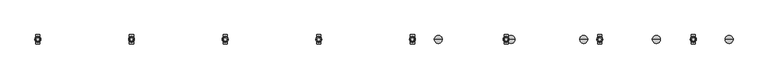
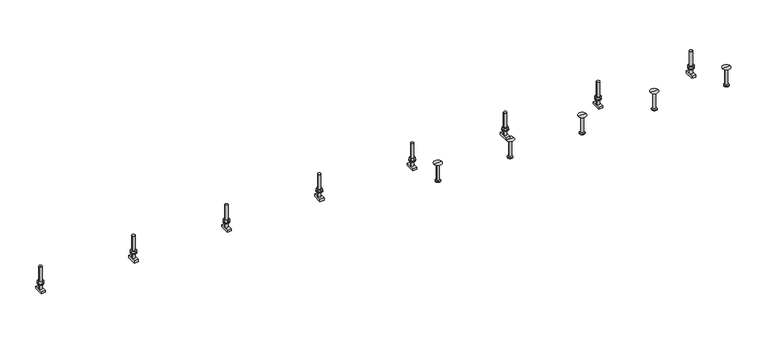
"""IFC4 building model written with IfcOpenShell, lengths in millimetres: fastener geometry, JTA-K JORDAHL® AnchorChannels : JTA-K L=3000 mm."""

from ifc_helpers import new_model, si_unit, point, frame, frame_2d, origin, place, context, project, spatial, polyline, circle_curve, trimmed, segment, composite_curve, outline, extrude, source, transform, mapped, element, save
from ifc_brep_helpers import plane_surface, cylinder_surface, revolved_surface, advanced_brep


def fastener_4070ea0e(model_context):
    return source(origin(), model_context, "Body", "SolidModel", [
        extrude(outline(polyline([(2608.3333333, -9.2376043), (2600.3333333, -4.6188022), (2600.3333333, 4.6188022), (2608.3333333, 9.2376043), (2616.3333333, 4.6188022), (2616.3333333, -4.6188022), (2608.3333333, -9.2376043)]), holes=[composite_curve([segment(trimmed(circle_curve(frame_2d((2608.3333333, 0.0)), 5.0), [point((2603.3333333, 0.0))], [point((2613.3333333, 0.0))], True, "CARTESIAN"), True, "CONTINUOUS"), segment(trimmed(circle_curve(frame_2d((2608.3333333, 0.0)), 5.0), [point((2613.3333333, 0.0))], [point((2603.3333333, 0.0))], True, "CARTESIAN"), True, "CONTINUOUS")], self_intersect=False)]), frame((0.0, 0.0, 17.0), z_axis=(0.0, 0.0, 1.0), x_axis=(1.0, 0.0, 0.0)), (0.0, 0.0, 1.0), 8.4),
        extrude(outline(composite_curve([segment(trimmed(circle_curve(frame_2d((2608.3333333, 0.0)), 10.0), [point((2598.3333333, 0.0))], [point((2618.3333333, 0.0))], False, "CARTESIAN"), True, "CONTINUOUS"), segment(trimmed(circle_curve(frame_2d((2608.3333333, 0.0)), 10.0), [point((2618.3333333, 0.0))], [point((2598.3333333, 0.0))], False, "CARTESIAN"), True, "CONTINUOUS")], self_intersect=False), holes=[composite_curve([segment(trimmed(circle_curve(frame_2d((2608.3333333, 0.0)), 5.25), [point((2603.0833333, 0.0))], [point((2613.5833333, 0.0))], True, "CARTESIAN"), True, "CONTINUOUS"), segment(trimmed(circle_curve(frame_2d((2608.3333333, 0.0)), 5.25), [point((2613.5833333, 0.0))], [point((2603.0833333, 0.0))], True, "CARTESIAN"), True, "CONTINUOUS")], self_intersect=False)]), frame((0.0, 0.0, 15.0), z_axis=(0.0, 0.0, 1.0), x_axis=(1.0, 0.0, 0.0)), (0.0, 0.0, 1.0), 2.0),
        extrude(outline(polyline([(2291.6666667, -9.2376043), (2283.6666667, -4.6188022), (2283.6666667, 4.6188022), (2291.6666667, 9.2376043), (2299.6666667, 4.6188022), (2299.6666667, -4.6188022), (2291.6666667, -9.2376043)]), holes=[composite_curve([segment(trimmed(circle_curve(frame_2d((2291.6666667, 0.0)), 5.0), [point((2286.6666667, 0.0))], [point((2296.6666667, 0.0))], True, "CARTESIAN"), True, "CONTINUOUS"), segment(trimmed(circle_curve(frame_2d((2291.6666667, 0.0)), 5.0), [point((2296.6666667, 0.0))], [point((2286.6666667, 0.0))], True, "CARTESIAN"), True, "CONTINUOUS")], self_intersect=False)]), frame((0.0, 0.0, 17.0), z_axis=(0.0, 0.0, 1.0), x_axis=(1.0, 0.0, 0.0)), (0.0, 0.0, 1.0), 8.4),
        extrude(outline(composite_curve([segment(trimmed(circle_curve(frame_2d((2291.6666667, 0.0)), 10.0), [point((2281.6666667, 0.0))], [point((2301.6666667, 0.0))], False, "CARTESIAN"), True, "CONTINUOUS"), segment(trimmed(circle_curve(frame_2d((2291.6666667, 0.0)), 10.0), [point((2301.6666667, 0.0))], [point((2281.6666667, 0.0))], False, "CARTESIAN"), True, "CONTINUOUS")], self_intersect=False), holes=[composite_curve([segment(trimmed(circle_curve(frame_2d((2291.6666667, 0.0)), 5.25), [point((2286.4166667, 0.0))], [point((2296.9166667, 0.0))], True, "CARTESIAN"), True, "CONTINUOUS"), segment(trimmed(circle_curve(frame_2d((2291.6666667, 0.0)), 5.25), [point((2296.9166667, 0.0))], [point((2286.4166667, 0.0))], True, "CARTESIAN"), True, "CONTINUOUS")], self_intersect=False)]), frame((0.0, 0.0, 15.0), z_axis=(0.0, 0.0, 1.0), x_axis=(1.0, 0.0, 0.0)), (0.0, 0.0, 1.0), 2.0),
        extrude(outline(polyline([(1975.0, -9.2376043), (1967.0, -4.6188022), (1967.0, 4.6188022), (1975.0, 9.2376043), (1983.0, 4.6188022), (1983.0, -4.6188022), (1975.0, -9.2376043)]), holes=[composite_curve([segment(trimmed(circle_curve(frame_2d((1975.0, 0.0)), 5.0), [point((1970.0, 0.0))], [point((1980.0, 0.0))], True, "CARTESIAN"), True, "CONTINUOUS"), segment(trimmed(circle_curve(frame_2d((1975.0, 0.0)), 5.0), [point((1980.0, 0.0))], [point((1970.0, 0.0))], True, "CARTESIAN"), True, "CONTINUOUS")], self_intersect=False)]), frame((0.0, 0.0, 17.0), z_axis=(0.0, 0.0, 1.0), x_axis=(1.0, 0.0, 0.0)), (0.0, 0.0, 1.0), 8.4),
        extrude(outline(composite_curve([segment(trimmed(circle_curve(frame_2d((1975.0, 0.0)), 10.0), [point((1965.0, 0.0))], [point((1985.0, 0.0))], False, "CARTESIAN"), True, "CONTINUOUS"), segment(trimmed(circle_curve(frame_2d((1975.0, 0.0)), 10.0), [point((1985.0, 0.0))], [point((1965.0, 0.0))], False, "CARTESIAN"), True, "CONTINUOUS")], self_intersect=False), holes=[composite_curve([segment(trimmed(circle_curve(frame_2d((1975.0, 0.0)), 5.25), [point((1969.75, 0.0))], [point((1980.25, 0.0))], True, "CARTESIAN"), True, "CONTINUOUS"), segment(trimmed(circle_curve(frame_2d((1975.0, 0.0)), 5.25), [point((1980.25, 0.0))], [point((1969.75, 0.0))], True, "CARTESIAN"), True, "CONTINUOUS")], self_intersect=False)]), frame((0.0, 0.0, 15.0), z_axis=(0.0, 0.0, 1.0), x_axis=(1.0, 0.0, 0.0)), (0.0, 0.0, 1.0), 2.0),
        extrude(outline(polyline([(1658.3333333, -9.2376043), (1650.3333333, -4.6188022), (1650.3333333, 4.6188022), (1658.3333333, 9.2376043), (1666.3333333, 4.6188022), (1666.3333333, -4.6188022), (1658.3333333, -9.2376043)]), holes=[composite_curve([segment(trimmed(circle_curve(frame_2d((1658.3333333, 0.0)), 5.0), [point((1653.3333333, 0.0))], [point((1663.3333333, 0.0))], True, "CARTESIAN"), True, "CONTINUOUS"), segment(trimmed(circle_curve(frame_2d((1658.3333333, 0.0)), 5.0), [point((1663.3333333, 0.0))], [point((1653.3333333, 0.0))], True, "CARTESIAN"), True, "CONTINUOUS")], self_intersect=False)]), frame((0.0, 0.0, 17.0), z_axis=(0.0, 0.0, 1.0), x_axis=(1.0, 0.0, 0.0)), (0.0, 0.0, 1.0), 8.4),
        extrude(outline(composite_curve([segment(trimmed(circle_curve(frame_2d((1658.3333333, 0.0)), 10.0), [point((1648.3333333, 0.0))], [point((1668.3333333, 0.0))], False, "CARTESIAN"), True, "CONTINUOUS"), segment(trimmed(circle_curve(frame_2d((1658.3333333, 0.0)), 10.0), [point((1668.3333333, 0.0))], [point((1648.3333333, 0.0))], False, "CARTESIAN"), True, "CONTINUOUS")], self_intersect=False), holes=[composite_curve([segment(trimmed(circle_curve(frame_2d((1658.3333333, 0.0)), 5.25), [point((1653.0833333, 0.0))], [point((1663.5833333, 0.0))], True, "CARTESIAN"), True, "CONTINUOUS"), segment(trimmed(circle_curve(frame_2d((1658.3333333, 0.0)), 5.25), [point((1663.5833333, 0.0))], [point((1653.0833333, 0.0))], True, "CARTESIAN"), True, "CONTINUOUS")], self_intersect=False)]), frame((0.0, 0.0, 15.0), z_axis=(0.0, 0.0, 1.0), x_axis=(1.0, 0.0, 0.0)), (0.0, 0.0, 1.0), 2.0),
        extrude(outline(polyline([(1341.6666667, -9.2376043), (1333.6666667, -4.6188022), (1333.6666667, 4.6188022), (1341.6666667, 9.2376043), (1349.6666667, 4.6188022), (1349.6666667, -4.6188022), (1341.6666667, -9.2376043)]), holes=[composite_curve([segment(trimmed(circle_curve(frame_2d((1341.6666667, 0.0)), 5.0), [point((1336.6666667, 0.0))], [point((1346.6666667, 0.0))], True, "CARTESIAN"), True, "CONTINUOUS"), segment(trimmed(circle_curve(frame_2d((1341.6666667, 0.0)), 5.0), [point((1346.6666667, 0.0))], [point((1336.6666667, 0.0))], True, "CARTESIAN"), True, "CONTINUOUS")], self_intersect=False)]), frame((0.0, 0.0, 17.0), z_axis=(0.0, 0.0, 1.0), x_axis=(1.0, 0.0, 0.0)), (0.0, 0.0, 1.0), 8.4),
        extrude(outline(composite_curve([segment(trimmed(circle_curve(frame_2d((1341.6666667, 0.0)), 10.0), [point((1331.6666667, 0.0))], [point((1351.6666667, 0.0))], False, "CARTESIAN"), True, "CONTINUOUS"), segment(trimmed(circle_curve(frame_2d((1341.6666667, 0.0)), 10.0), [point((1351.6666667, 0.0))], [point((1331.6666667, 0.0))], False, "CARTESIAN"), True, "CONTINUOUS")], self_intersect=False), holes=[composite_curve([segment(trimmed(circle_curve(frame_2d((1341.6666667, 0.0)), 5.25), [point((1336.4166667, 0.0))], [point((1346.9166667, 0.0))], True, "CARTESIAN"), True, "CONTINUOUS"), segment(trimmed(circle_curve(frame_2d((1341.6666667, 0.0)), 5.25), [point((1346.9166667, 0.0))], [point((1336.4166667, 0.0))], True, "CARTESIAN"), True, "CONTINUOUS")], self_intersect=False)]), frame((0.0, 0.0, 15.0), z_axis=(0.0, 0.0, 1.0), x_axis=(1.0, 0.0, 0.0)), (0.0, 0.0, 1.0), 2.0),
        extrude(outline(polyline([(1025.0, -9.2376043), (1017.0, -4.6188022), (1017.0, 4.6188022), (1025.0, 9.2376043), (1033.0, 4.6188022), (1033.0, -4.6188022), (1025.0, -9.2376043)]), holes=[composite_curve([segment(trimmed(circle_curve(frame_2d((1025.0, 0.0)), 5.0), [point((1020.0, 0.0))], [point((1030.0, 0.0))], True, "CARTESIAN"), True, "CONTINUOUS"), segment(trimmed(circle_curve(frame_2d((1025.0, 0.0)), 5.0), [point((1030.0, 0.0))], [point((1020.0, 0.0))], True, "CARTESIAN"), True, "CONTINUOUS")], self_intersect=False)]), frame((0.0, 0.0, 17.0), z_axis=(0.0, 0.0, 1.0), x_axis=(1.0, 0.0, 0.0)), (0.0, 0.0, 1.0), 8.4),
        extrude(outline(composite_curve([segment(trimmed(circle_curve(frame_2d((1025.0, 0.0)), 10.0), [point((1015.0, 0.0))], [point((1035.0, 0.0))], False, "CARTESIAN"), True, "CONTINUOUS"), segment(trimmed(circle_curve(frame_2d((1025.0, 0.0)), 10.0), [point((1035.0, 0.0))], [point((1015.0, 0.0))], False, "CARTESIAN"), True, "CONTINUOUS")], self_intersect=False), holes=[composite_curve([segment(trimmed(circle_curve(frame_2d((1025.0, 0.0)), 5.25), [point((1019.75, 0.0))], [point((1030.25, 0.0))], True, "CARTESIAN"), True, "CONTINUOUS"), segment(trimmed(circle_curve(frame_2d((1025.0, 0.0)), 5.25), [point((1030.25, 0.0))], [point((1019.75, 0.0))], True, "CARTESIAN"), True, "CONTINUOUS")], self_intersect=False)]), frame((0.0, 0.0, 15.0), z_axis=(0.0, 0.0, 1.0), x_axis=(1.0, 0.0, 0.0)), (0.0, 0.0, 1.0), 2.0),
        extrude(outline(polyline([(708.3333333, -9.2376043), (700.3333333, -4.6188022), (700.3333333, 4.6188022), (708.3333333, 9.2376043), (716.3333333, 4.6188022), (716.3333333, -4.6188022), (708.3333333, -9.2376043)]), holes=[composite_curve([segment(trimmed(circle_curve(frame_2d((708.3333333, 0.0)), 5.0), [point((703.3333333, 0.0))], [point((713.3333333, 0.0))], True, "CARTESIAN"), True, "CONTINUOUS"), segment(trimmed(circle_curve(frame_2d((708.3333333, 0.0)), 5.0), [point((713.3333333, 0.0))], [point((703.3333333, 0.0))], True, "CARTESIAN"), True, "CONTINUOUS")], self_intersect=False)]), frame((0.0, 0.0, 17.0), z_axis=(0.0, 0.0, 1.0), x_axis=(1.0, 0.0, 0.0)), (0.0, 0.0, 1.0), 8.4),
        extrude(outline(composite_curve([segment(trimmed(circle_curve(frame_2d((708.3333333, 0.0)), 10.0), [point((698.3333333, 0.0))], [point((718.3333333, 0.0))], False, "CARTESIAN"), True, "CONTINUOUS"), segment(trimmed(circle_curve(frame_2d((708.3333333, 0.0)), 10.0), [point((718.3333333, 0.0))], [point((698.3333333, 0.0))], False, "CARTESIAN"), True, "CONTINUOUS")], self_intersect=False), holes=[composite_curve([segment(trimmed(circle_curve(frame_2d((708.3333333, 0.0)), 5.25), [point((703.0833333, 0.0))], [point((713.5833333, 0.0))], True, "CARTESIAN"), True, "CONTINUOUS"), segment(trimmed(circle_curve(frame_2d((708.3333333, 0.0)), 5.25), [point((713.5833333, 0.0))], [point((703.0833333, 0.0))], True, "CARTESIAN"), True, "CONTINUOUS")], self_intersect=False)]), frame((0.0, 0.0, 15.0), z_axis=(0.0, 0.0, 1.0), x_axis=(1.0, 0.0, 0.0)), (0.0, 0.0, 1.0), 2.0),
        extrude(outline(polyline([(391.6666667, -9.2376043), (383.6666667, -4.6188022), (383.6666667, 4.6188022), (391.6666667, 9.2376043), (399.6666667, 4.6188022), (399.6666667, -4.6188022), (391.6666667, -9.2376043)]), holes=[composite_curve([segment(trimmed(circle_curve(frame_2d((391.6666667, 0.0)), 5.0), [point((386.6666667, 0.0))], [point((396.6666667, 0.0))], True, "CARTESIAN"), True, "CONTINUOUS"), segment(trimmed(circle_curve(frame_2d((391.6666667, 0.0)), 5.0), [point((396.6666667, 0.0))], [point((386.6666667, 0.0))], True, "CARTESIAN"), True, "CONTINUOUS")], self_intersect=False)]), frame((0.0, 0.0, 17.0), z_axis=(0.0, 0.0, 1.0), x_axis=(1.0, 0.0, 0.0)), (0.0, 0.0, 1.0), 8.4),
        extrude(outline(composite_curve([segment(trimmed(circle_curve(frame_2d((391.6666667, 0.0)), 10.0), [point((381.6666667, 0.0))], [point((401.6666667, 0.0))], False, "CARTESIAN"), True, "CONTINUOUS"), segment(trimmed(circle_curve(frame_2d((391.6666667, 0.0)), 10.0), [point((401.6666667, 0.0))], [point((381.6666667, 0.0))], False, "CARTESIAN"), True, "CONTINUOUS")], self_intersect=False), holes=[composite_curve([segment(trimmed(circle_curve(frame_2d((391.6666667, 0.0)), 5.25), [point((386.4166667, 0.0))], [point((396.9166667, 0.0))], True, "CARTESIAN"), True, "CONTINUOUS"), segment(trimmed(circle_curve(frame_2d((391.6666667, 0.0)), 5.25), [point((396.9166667, 0.0))], [point((386.4166667, 0.0))], True, "CARTESIAN"), True, "CONTINUOUS")], self_intersect=False)]), frame((0.0, 0.0, 15.0), z_axis=(0.0, 0.0, 1.0), x_axis=(1.0, 0.0, 0.0)), (0.0, 0.0, 1.0), 2.0),
        advanced_brep(
        [(2615.3333333, -16.0, -3.0), (2615.3333333, -16.0, -11.0), (2615.3333333, 16.0, -11.0), (2615.3333333, 16.0, -3.0), (2601.3333333, -16.0, -3.0), (2601.3333333, 16.0, -3.0), (2601.3333333, 16.0, -11.0), (2601.3333333, -16.0, -11.0), (2613.3333333, 0.0, -3.0), (2603.3333333, 0.0, -3.0), (2603.3333333, 0.0, 77.0), (2613.3333333, 0.0, 77.0)],
        [
            (0, 1),
            (1, 2),
            (2, 3),
            (3, 0),
            (4, 5),
            (5, 6),
            (6, 7),
            (7, 4),
            (3, 5),
            (4, 0),
            (8, 9, circle_curve(frame((2608.3333333, 0.0, -3.0), z_axis=(0.0, 0.0, -1.0), x_axis=(1.0, 0.0, 0.0)), 5.0)),
            (9, 8, circle_curve(frame((2608.3333333, 0.0, -3.0), z_axis=(0.0, 0.0, -1.0), x_axis=(1.0, 0.0, 0.0)), 5.0)),
            (2, 6),
            (1, 7),
            (10, 11, circle_curve(frame((2608.3333333, 0.0, 77.0), z_axis=(0.0, 0.0, 1.0), x_axis=(1.0, 0.0, 0.0)), 5.0)),
            (11, 10, circle_curve(frame((2608.3333333, 0.0, 77.0), z_axis=(0.0, 0.0, 1.0), x_axis=(1.0, 0.0, 0.0)), 5.0)),
            (11, 8),
            (9, 10),
        ],
        [
            plane_surface(frame((2615.3333333, 16.0, -3.0), z_axis=(1.0, 0.0, 0.0), x_axis=(0.0, 1.0, 0.0))),
            plane_surface(frame((2601.3333333, 16.0, -3.0), z_axis=(-1.0, 0.0, 0.0), x_axis=(0.0, -1.0, 0.0))),
            plane_surface(frame((2615.3333333, -16.0, -3.0), z_axis=(0.0, 0.0, 1.0), x_axis=(-1.0, 0.0, 0.0))),
            plane_surface(frame((2615.3333333, 16.0, -3.0), z_axis=(0.0, 1.0, 0.0), x_axis=(-1.0, 0.0, 0.0))),
            plane_surface(frame((2615.3333333, 16.0, -11.0), z_axis=(0.0, 0.0, -1.0), x_axis=(-1.0, 0.0, 0.0))),
            plane_surface(frame((2615.3333333, -16.0, -11.0), z_axis=(0.0, -1.0, 0.0), x_axis=(-1.0, 0.0, 0.0))),
            plane_surface(frame((2613.3333333, 0.0, 77.0), z_axis=(0.0, 0.0, 1.0), x_axis=(0.0, -1.0, 0.0))),
            cylinder_surface(frame((2608.3333333, 0.0, -3.0), z_axis=(0.0, 0.0, 1.0), x_axis=(1.0, 0.0, 0.0)), 5.0),
        ],
        [
            (0, [[1, 2, 3, 4]]),
            (1, [[5, 6, 7, 8]]),
            (2, [[9, -5, 10, -4], [11, 12]]),
            (3, [[13, -6, -9, -3]]),
            (4, [[14, -7, -13, -2]]),
            (5, [[-10, -8, -14, -1]]),
            (6, [[15, 16]]),
            (7, [[17, -12, 18, -16]]),
            (7, [[-18, -11, -17, -15]]),
        ],
    ),
        advanced_brep(
        [(2298.6666667, -16.0, -3.0), (2298.6666667, -16.0, -11.0), (2298.6666667, 16.0, -11.0), (2298.6666667, 16.0, -3.0), (2284.6666667, -16.0, -3.0), (2284.6666667, 16.0, -3.0), (2284.6666667, 16.0, -11.0), (2284.6666667, -16.0, -11.0), (2296.6666667, 0.0, -3.0), (2286.6666667, 0.0, -3.0), (2286.6666667, 0.0, 77.0), (2296.6666667, 0.0, 77.0)],
        [
            (0, 1),
            (1, 2),
            (2, 3),
            (3, 0),
            (4, 5),
            (5, 6),
            (6, 7),
            (7, 4),
            (3, 5),
            (4, 0),
            (8, 9, circle_curve(frame((2291.6666667, 0.0, -3.0), z_axis=(0.0, 0.0, -1.0), x_axis=(1.0, 0.0, 0.0)), 5.0)),
            (9, 8, circle_curve(frame((2291.6666667, 0.0, -3.0), z_axis=(0.0, 0.0, -1.0), x_axis=(1.0, 0.0, 0.0)), 5.0)),
            (2, 6),
            (1, 7),
            (10, 11, circle_curve(frame((2291.6666667, 0.0, 77.0), z_axis=(0.0, 0.0, 1.0), x_axis=(1.0, 0.0, 0.0)), 5.0)),
            (11, 10, circle_curve(frame((2291.6666667, 0.0, 77.0), z_axis=(0.0, 0.0, 1.0), x_axis=(1.0, 0.0, 0.0)), 5.0)),
            (11, 8),
            (9, 10),
        ],
        [
            plane_surface(frame((2298.6666667, 16.0, -3.0), z_axis=(1.0, 0.0, 0.0), x_axis=(0.0, 1.0, 0.0))),
            plane_surface(frame((2284.6666667, 16.0, -3.0), z_axis=(-1.0, 0.0, 0.0), x_axis=(0.0, -1.0, 0.0))),
            plane_surface(frame((2298.6666667, -16.0, -3.0), z_axis=(0.0, 0.0, 1.0), x_axis=(-1.0, 0.0, 0.0))),
            plane_surface(frame((2298.6666667, 16.0, -3.0), z_axis=(0.0, 1.0, 0.0), x_axis=(-1.0, 0.0, 0.0))),
            plane_surface(frame((2298.6666667, 16.0, -11.0), z_axis=(0.0, 0.0, -1.0), x_axis=(-1.0, 0.0, 0.0))),
            plane_surface(frame((2298.6666667, -16.0, -11.0), z_axis=(0.0, -1.0, 0.0), x_axis=(-1.0, 0.0, 0.0))),
            plane_surface(frame((2296.6666667, 0.0, 77.0), z_axis=(0.0, 0.0, 1.0), x_axis=(0.0, -1.0, 0.0))),
            cylinder_surface(frame((2291.6666667, 0.0, -3.0), z_axis=(0.0, 0.0, 1.0), x_axis=(1.0, 0.0, 0.0)), 5.0),
        ],
        [
            (0, [[1, 2, 3, 4]]),
            (1, [[5, 6, 7, 8]]),
            (2, [[9, -5, 10, -4], [11, 12]]),
            (3, [[13, -6, -9, -3]]),
            (4, [[14, -7, -13, -2]]),
            (5, [[-10, -8, -14, -1]]),
            (6, [[15, 16]]),
            (7, [[17, -12, 18, -16]]),
            (7, [[-18, -11, -17, -15]]),
        ],
    ),
        advanced_brep(
        [(1982.0, -16.0, -3.0), (1982.0, -16.0, -11.0), (1982.0, 16.0, -11.0), (1982.0, 16.0, -3.0), (1968.0, -16.0, -3.0), (1968.0, 16.0, -3.0), (1968.0, 16.0, -11.0), (1968.0, -16.0, -11.0), (1980.0, 0.0, -3.0), (1970.0, 0.0, -3.0), (1970.0, 0.0, 77.0), (1980.0, 0.0, 77.0)],
        [
            (0, 1),
            (1, 2),
            (2, 3),
            (3, 0),
            (4, 5),
            (5, 6),
            (6, 7),
            (7, 4),
            (3, 5),
            (4, 0),
            (8, 9, circle_curve(frame((1975.0, 0.0, -3.0), z_axis=(0.0, 0.0, -1.0), x_axis=(1.0, 0.0, 0.0)), 5.0)),
            (9, 8, circle_curve(frame((1975.0, 0.0, -3.0), z_axis=(0.0, 0.0, -1.0), x_axis=(1.0, 0.0, 0.0)), 5.0)),
            (2, 6),
            (1, 7),
            (10, 11, circle_curve(frame((1975.0, 0.0, 77.0), z_axis=(0.0, 0.0, 1.0), x_axis=(1.0, 0.0, 0.0)), 5.0)),
            (11, 10, circle_curve(frame((1975.0, 0.0, 77.0), z_axis=(0.0, 0.0, 1.0), x_axis=(1.0, 0.0, 0.0)), 5.0)),
            (11, 8),
            (9, 10),
        ],
        [
            plane_surface(frame((1982.0, 16.0, -3.0), z_axis=(1.0, 0.0, 0.0), x_axis=(0.0, 1.0, 0.0))),
            plane_surface(frame((1968.0, 16.0, -3.0), z_axis=(-1.0, 0.0, 0.0), x_axis=(0.0, -1.0, 0.0))),
            plane_surface(frame((1982.0, -16.0, -3.0), z_axis=(0.0, 0.0, 1.0), x_axis=(-1.0, 0.0, 0.0))),
            plane_surface(frame((1982.0, 16.0, -3.0), z_axis=(0.0, 1.0, 0.0), x_axis=(-1.0, 0.0, 0.0))),
            plane_surface(frame((1982.0, 16.0, -11.0), z_axis=(0.0, 0.0, -1.0), x_axis=(-1.0, 0.0, 0.0))),
            plane_surface(frame((1982.0, -16.0, -11.0), z_axis=(0.0, -1.0, 0.0), x_axis=(-1.0, 0.0, 0.0))),
            plane_surface(frame((1980.0, 0.0, 77.0), z_axis=(0.0, 0.0, 1.0), x_axis=(0.0, -1.0, 0.0))),
            cylinder_surface(frame((1975.0, 0.0, -3.0), z_axis=(0.0, 0.0, 1.0), x_axis=(1.0, 0.0, 0.0)), 5.0),
        ],
        [
            (0, [[1, 2, 3, 4]]),
            (1, [[5, 6, 7, 8]]),
            (2, [[9, -5, 10, -4], [11, 12]]),
            (3, [[13, -6, -9, -3]]),
            (4, [[14, -7, -13, -2]]),
            (5, [[-10, -8, -14, -1]]),
            (6, [[15, 16]]),
            (7, [[17, -12, 18, -16]]),
            (7, [[-18, -11, -17, -15]]),
        ],
    ),
        advanced_brep(
        [(1665.3333333, -16.0, -3.0), (1665.3333333, -16.0, -11.0), (1665.3333333, 16.0, -11.0), (1665.3333333, 16.0, -3.0), (1651.3333333, -16.0, -3.0), (1651.3333333, 16.0, -3.0), (1651.3333333, 16.0, -11.0), (1651.3333333, -16.0, -11.0), (1663.3333333, 0.0, -3.0), (1653.3333333, 0.0, -3.0), (1653.3333333, 0.0, 77.0), (1663.3333333, 0.0, 77.0)],
        [
            (0, 1),
            (1, 2),
            (2, 3),
            (3, 0),
            (4, 5),
            (5, 6),
            (6, 7),
            (7, 4),
            (3, 5),
            (4, 0),
            (8, 9, circle_curve(frame((1658.3333333, 0.0, -3.0), z_axis=(0.0, 0.0, -1.0), x_axis=(1.0, 0.0, 0.0)), 5.0)),
            (9, 8, circle_curve(frame((1658.3333333, 0.0, -3.0), z_axis=(0.0, 0.0, -1.0), x_axis=(1.0, 0.0, 0.0)), 5.0)),
            (2, 6),
            (1, 7),
            (10, 11, circle_curve(frame((1658.3333333, 0.0, 77.0), z_axis=(0.0, 0.0, 1.0), x_axis=(1.0, 0.0, 0.0)), 5.0)),
            (11, 10, circle_curve(frame((1658.3333333, 0.0, 77.0), z_axis=(0.0, 0.0, 1.0), x_axis=(1.0, 0.0, 0.0)), 5.0)),
            (11, 8),
            (9, 10),
        ],
        [
            plane_surface(frame((1665.3333333, 16.0, -3.0), z_axis=(1.0, 0.0, 0.0), x_axis=(0.0, 1.0, 0.0))),
            plane_surface(frame((1651.3333333, 16.0, -3.0), z_axis=(-1.0, 0.0, 0.0), x_axis=(0.0, -1.0, 0.0))),
            plane_surface(frame((1665.3333333, -16.0, -3.0), z_axis=(0.0, 0.0, 1.0), x_axis=(-1.0, 0.0, 0.0))),
            plane_surface(frame((1665.3333333, 16.0, -3.0), z_axis=(0.0, 1.0, 0.0), x_axis=(-1.0, 0.0, 0.0))),
            plane_surface(frame((1665.3333333, 16.0, -11.0), z_axis=(0.0, 0.0, -1.0), x_axis=(-1.0, 0.0, 0.0))),
            plane_surface(frame((1665.3333333, -16.0, -11.0), z_axis=(0.0, -1.0, 0.0), x_axis=(-1.0, 0.0, 0.0))),
            plane_surface(frame((1663.3333333, 0.0, 77.0), z_axis=(0.0, 0.0, 1.0), x_axis=(0.0, -1.0, 0.0))),
            cylinder_surface(frame((1658.3333333, 0.0, -3.0), z_axis=(0.0, 0.0, 1.0), x_axis=(1.0, 0.0, 0.0)), 5.0),
        ],
        [
            (0, [[1, 2, 3, 4]]),
            (1, [[5, 6, 7, 8]]),
            (2, [[9, -5, 10, -4], [11, 12]]),
            (3, [[13, -6, -9, -3]]),
            (4, [[14, -7, -13, -2]]),
            (5, [[-10, -8, -14, -1]]),
            (6, [[15, 16]]),
            (7, [[17, -12, 18, -16]]),
            (7, [[-18, -11, -17, -15]]),
        ],
    ),
        advanced_brep(
        [(1348.6666667, -16.0, -3.0), (1348.6666667, -16.0, -11.0), (1348.6666667, 16.0, -11.0), (1348.6666667, 16.0, -3.0), (1334.6666667, -16.0, -3.0), (1334.6666667, 16.0, -3.0), (1334.6666667, 16.0, -11.0), (1334.6666667, -16.0, -11.0), (1346.6666667, 0.0, -3.0), (1336.6666667, 0.0, -3.0), (1336.6666667, 0.0, 77.0), (1346.6666667, 0.0, 77.0)],
        [
            (0, 1),
            (1, 2),
            (2, 3),
            (3, 0),
            (4, 5),
            (5, 6),
            (6, 7),
            (7, 4),
            (3, 5),
            (4, 0),
            (8, 9, circle_curve(frame((1341.6666667, 0.0, -3.0), z_axis=(0.0, 0.0, -1.0), x_axis=(1.0, 0.0, 0.0)), 5.0)),
            (9, 8, circle_curve(frame((1341.6666667, 0.0, -3.0), z_axis=(0.0, 0.0, -1.0), x_axis=(1.0, 0.0, 0.0)), 5.0)),
            (2, 6),
            (1, 7),
            (10, 11, circle_curve(frame((1341.6666667, 0.0, 77.0), z_axis=(0.0, 0.0, 1.0), x_axis=(1.0, 0.0, 0.0)), 5.0)),
            (11, 10, circle_curve(frame((1341.6666667, 0.0, 77.0), z_axis=(0.0, 0.0, 1.0), x_axis=(1.0, 0.0, 0.0)), 5.0)),
            (11, 8),
            (9, 10),
        ],
        [
            plane_surface(frame((1348.6666667, 16.0, -3.0), z_axis=(1.0, 0.0, 0.0), x_axis=(0.0, 1.0, 0.0))),
            plane_surface(frame((1334.6666667, 16.0, -3.0), z_axis=(-1.0, 0.0, 0.0), x_axis=(0.0, -1.0, 0.0))),
            plane_surface(frame((1348.6666667, -16.0, -3.0), z_axis=(0.0, 0.0, 1.0), x_axis=(-1.0, 0.0, 0.0))),
            plane_surface(frame((1348.6666667, 16.0, -3.0), z_axis=(0.0, 1.0, 0.0), x_axis=(-1.0, 0.0, 0.0))),
            plane_surface(frame((1348.6666667, 16.0, -11.0), z_axis=(0.0, 0.0, -1.0), x_axis=(-1.0, 0.0, 0.0))),
            plane_surface(frame((1348.6666667, -16.0, -11.0), z_axis=(0.0, -1.0, 0.0), x_axis=(-1.0, 0.0, 0.0))),
            plane_surface(frame((1346.6666667, 0.0, 77.0), z_axis=(0.0, 0.0, 1.0), x_axis=(0.0, -1.0, 0.0))),
            cylinder_surface(frame((1341.6666667, 0.0, -3.0), z_axis=(0.0, 0.0, 1.0), x_axis=(1.0, 0.0, 0.0)), 5.0),
        ],
        [
            (0, [[1, 2, 3, 4]]),
            (1, [[5, 6, 7, 8]]),
            (2, [[9, -5, 10, -4], [11, 12]]),
            (3, [[13, -6, -9, -3]]),
            (4, [[14, -7, -13, -2]]),
            (5, [[-10, -8, -14, -1]]),
            (6, [[15, 16]]),
            (7, [[17, -12, 18, -16]]),
            (7, [[-18, -11, -17, -15]]),
        ],
    ),
        advanced_brep(
        [(1032.0, -16.0, -3.0), (1032.0, -16.0, -11.0), (1032.0, 16.0, -11.0), (1032.0, 16.0, -3.0), (1018.0, -16.0, -3.0), (1018.0, 16.0, -3.0), (1018.0, 16.0, -11.0), (1018.0, -16.0, -11.0), (1030.0, 0.0, -3.0), (1020.0, 0.0, -3.0), (1020.0, 0.0, 77.0), (1030.0, 0.0, 77.0)],
        [
            (0, 1),
            (1, 2),
            (2, 3),
            (3, 0),
            (4, 5),
            (5, 6),
            (6, 7),
            (7, 4),
            (3, 5),
            (4, 0),
            (8, 9, circle_curve(frame((1025.0, 0.0, -3.0), z_axis=(0.0, 0.0, -1.0), x_axis=(1.0, 0.0, 0.0)), 5.0)),
            (9, 8, circle_curve(frame((1025.0, 0.0, -3.0), z_axis=(0.0, 0.0, -1.0), x_axis=(1.0, 0.0, 0.0)), 5.0)),
            (2, 6),
            (1, 7),
            (10, 11, circle_curve(frame((1025.0, 0.0, 77.0), z_axis=(0.0, 0.0, 1.0), x_axis=(1.0, 0.0, 0.0)), 5.0)),
            (11, 10, circle_curve(frame((1025.0, 0.0, 77.0), z_axis=(0.0, 0.0, 1.0), x_axis=(1.0, 0.0, 0.0)), 5.0)),
            (11, 8),
            (9, 10),
        ],
        [
            plane_surface(frame((1032.0, 16.0, -3.0), z_axis=(1.0, 0.0, 0.0), x_axis=(0.0, 1.0, 0.0))),
            plane_surface(frame((1018.0, 16.0, -3.0), z_axis=(-1.0, 0.0, 0.0), x_axis=(0.0, -1.0, 0.0))),
            plane_surface(frame((1032.0, -16.0, -3.0), z_axis=(0.0, 0.0, 1.0), x_axis=(-1.0, 0.0, 0.0))),
            plane_surface(frame((1032.0, 16.0, -3.0), z_axis=(0.0, 1.0, 0.0), x_axis=(-1.0, 0.0, 0.0))),
            plane_surface(frame((1032.0, 16.0, -11.0), z_axis=(0.0, 0.0, -1.0), x_axis=(-1.0, 0.0, 0.0))),
            plane_surface(frame((1032.0, -16.0, -11.0), z_axis=(0.0, -1.0, 0.0), x_axis=(-1.0, 0.0, 0.0))),
            plane_surface(frame((1030.0, 0.0, 77.0), z_axis=(0.0, 0.0, 1.0), x_axis=(0.0, -1.0, 0.0))),
            cylinder_surface(frame((1025.0, 0.0, -3.0), z_axis=(0.0, 0.0, 1.0), x_axis=(1.0, 0.0, 0.0)), 5.0),
        ],
        [
            (0, [[1, 2, 3, 4]]),
            (1, [[5, 6, 7, 8]]),
            (2, [[9, -5, 10, -4], [11, 12]]),
            (3, [[13, -6, -9, -3]]),
            (4, [[14, -7, -13, -2]]),
            (5, [[-10, -8, -14, -1]]),
            (6, [[15, 16]]),
            (7, [[17, -12, 18, -16]]),
            (7, [[-18, -11, -17, -15]]),
        ],
    ),
        advanced_brep(
        [(715.3333333, -16.0, -3.0), (715.3333333, -16.0, -11.0), (715.3333333, 16.0, -11.0), (715.3333333, 16.0, -3.0), (701.3333333, -16.0, -3.0), (701.3333333, 16.0, -3.0), (701.3333333, 16.0, -11.0), (701.3333333, -16.0, -11.0), (713.3333333, 0.0, -3.0), (703.3333333, 0.0, -3.0), (703.3333333, 0.0, 77.0), (713.3333333, 0.0, 77.0)],
        [
            (0, 1),
            (1, 2),
            (2, 3),
            (3, 0),
            (4, 5),
            (5, 6),
            (6, 7),
            (7, 4),
            (3, 5),
            (4, 0),
            (8, 9, circle_curve(frame((708.3333333, 0.0, -3.0), z_axis=(0.0, 0.0, -1.0), x_axis=(1.0, 0.0, 0.0)), 5.0)),
            (9, 8, circle_curve(frame((708.3333333, 0.0, -3.0), z_axis=(0.0, 0.0, -1.0), x_axis=(1.0, 0.0, 0.0)), 5.0)),
            (2, 6),
            (1, 7),
            (10, 11, circle_curve(frame((708.3333333, 0.0, 77.0), z_axis=(0.0, 0.0, 1.0), x_axis=(1.0, 0.0, 0.0)), 5.0)),
            (11, 10, circle_curve(frame((708.3333333, 0.0, 77.0), z_axis=(0.0, 0.0, 1.0), x_axis=(1.0, 0.0, 0.0)), 5.0)),
            (11, 8),
            (9, 10),
        ],
        [
            plane_surface(frame((715.3333333, 16.0, -3.0), z_axis=(1.0, 0.0, 0.0), x_axis=(0.0, 1.0, 0.0))),
            plane_surface(frame((701.3333333, 16.0, -3.0), z_axis=(-1.0, 0.0, 0.0), x_axis=(0.0, -1.0, 0.0))),
            plane_surface(frame((715.3333333, -16.0, -3.0), z_axis=(0.0, 0.0, 1.0), x_axis=(-1.0, 0.0, 0.0))),
            plane_surface(frame((715.3333333, 16.0, -3.0), z_axis=(0.0, 1.0, 0.0), x_axis=(-1.0, 0.0, 0.0))),
            plane_surface(frame((715.3333333, 16.0, -11.0), z_axis=(0.0, 0.0, -1.0), x_axis=(-1.0, 0.0, 0.0))),
            plane_surface(frame((715.3333333, -16.0, -11.0), z_axis=(0.0, -1.0, 0.0), x_axis=(-1.0, 0.0, 0.0))),
            plane_surface(frame((713.3333333, 0.0, 77.0), z_axis=(0.0, 0.0, 1.0), x_axis=(0.0, -1.0, 0.0))),
            cylinder_surface(frame((708.3333333, 0.0, -3.0), z_axis=(0.0, 0.0, 1.0), x_axis=(1.0, 0.0, 0.0)), 5.0),
        ],
        [
            (0, [[1, 2, 3, 4]]),
            (1, [[5, 6, 7, 8]]),
            (2, [[9, -5, 10, -4], [11, 12]]),
            (3, [[13, -6, -9, -3]]),
            (4, [[14, -7, -13, -2]]),
            (5, [[-10, -8, -14, -1]]),
            (6, [[15, 16]]),
            (7, [[17, -12, 18, -16]]),
            (7, [[-18, -11, -17, -15]]),
        ],
    ),
        advanced_brep(
        [(398.6666667, -16.0, -3.0), (398.6666667, -16.0, -11.0), (398.6666667, 16.0, -11.0), (398.6666667, 16.0, -3.0), (384.6666667, -16.0, -3.0), (384.6666667, 16.0, -3.0), (384.6666667, 16.0, -11.0), (384.6666667, -16.0, -11.0), (396.6666667, 0.0, -3.0), (386.6666667, 0.0, -3.0), (386.6666667, 0.0, 77.0), (396.6666667, 0.0, 77.0)],
        [
            (0, 1),
            (1, 2),
            (2, 3),
            (3, 0),
            (4, 5),
            (5, 6),
            (6, 7),
            (7, 4),
            (3, 5),
            (4, 0),
            (8, 9, circle_curve(frame((391.6666667, 0.0, -3.0), z_axis=(0.0, 0.0, -1.0), x_axis=(1.0, 0.0, 0.0)), 5.0)),
            (9, 8, circle_curve(frame((391.6666667, 0.0, -3.0), z_axis=(0.0, 0.0, -1.0), x_axis=(1.0, 0.0, 0.0)), 5.0)),
            (2, 6),
            (1, 7),
            (10, 11, circle_curve(frame((391.6666667, 0.0, 77.0), z_axis=(0.0, 0.0, 1.0), x_axis=(1.0, 0.0, 0.0)), 5.0)),
            (11, 10, circle_curve(frame((391.6666667, 0.0, 77.0), z_axis=(0.0, 0.0, 1.0), x_axis=(1.0, 0.0, 0.0)), 5.0)),
            (11, 8),
            (9, 10),
        ],
        [
            plane_surface(frame((398.6666667, 16.0, -3.0), z_axis=(1.0, 0.0, 0.0), x_axis=(0.0, 1.0, 0.0))),
            plane_surface(frame((384.6666667, 16.0, -3.0), z_axis=(-1.0, 0.0, 0.0), x_axis=(0.0, -1.0, 0.0))),
            plane_surface(frame((398.6666667, -16.0, -3.0), z_axis=(0.0, 0.0, 1.0), x_axis=(-1.0, 0.0, 0.0))),
            plane_surface(frame((398.6666667, 16.0, -3.0), z_axis=(0.0, 1.0, 0.0), x_axis=(-1.0, 0.0, 0.0))),
            plane_surface(frame((398.6666667, 16.0, -11.0), z_axis=(0.0, 0.0, -1.0), x_axis=(-1.0, 0.0, 0.0))),
            plane_surface(frame((398.6666667, -16.0, -11.0), z_axis=(0.0, -1.0, 0.0), x_axis=(-1.0, 0.0, 0.0))),
            plane_surface(frame((396.6666667, 0.0, 77.0), z_axis=(0.0, 0.0, 1.0), x_axis=(0.0, -1.0, 0.0))),
            cylinder_surface(frame((391.6666667, 0.0, -3.0), z_axis=(0.0, 0.0, 1.0), x_axis=(1.0, 0.0, 0.0)), 5.0),
        ],
        [
            (0, [[1, 2, 3, 4]]),
            (1, [[5, 6, 7, 8]]),
            (2, [[9, -5, 10, -4], [11, 12]]),
            (3, [[13, -6, -9, -3]]),
            (4, [[14, -7, -13, -2]]),
            (5, [[-10, -8, -14, -1]]),
            (6, [[15, 16]]),
            (7, [[17, -12, 18, -16]]),
            (7, [[-18, -11, -17, -15]]),
        ],
    ),
        advanced_brep(
        [(2729.1666667, 0.0, -25.0), (2715.6666667, 0.0, -25.0), (2742.6666667, 0.0, -25.0), (2720.6666667, 0.0, -90.0), (2729.1666667, 0.0, -90.0), (2737.6666667, 0.0, -90.0), (2720.6666667, 0.0, -88.0), (2737.6666667, 0.0, -88.0), (2724.6666667, 0.0, -85.6905989), (2733.6666667, 0.0, -85.6905989), (2724.6666667, 0.0, -27.5), (2733.6666667, 0.0, -27.5)],
        [
            (0, 1),
            (1, 2, circle_curve(frame((2729.1666667, 0.0, -25.0), z_axis=(0.0, 0.0, 1.0), x_axis=(1.0, 0.0, 0.0)), 13.5)),
            (2, 0),
            (2, 1, circle_curve(frame((2729.1666667, 0.0, -25.0), z_axis=(0.0, 0.0, 1.0), x_axis=(1.0, 0.0, 0.0)), 13.5)),
            (3, 4),
            (4, 5),
            (5, 3, circle_curve(frame((2729.1666667, 0.0, -90.0), z_axis=(0.0, 0.0, -1.0), x_axis=(1.0, 0.0, 0.0)), 8.5)),
            (3, 5, circle_curve(frame((2729.1666667, 0.0, -90.0), z_axis=(0.0, 0.0, -1.0), x_axis=(1.0, 0.0, 0.0)), 8.5)),
            (6, 3),
            (5, 7),
            (7, 6, circle_curve(frame((2729.1666667, 0.0, -88.0), z_axis=(0.0, 0.0, -1.0), x_axis=(1.0, 0.0, 0.0)), 8.5)),
            (6, 7, circle_curve(frame((2729.1666667, 0.0, -88.0), z_axis=(0.0, 0.0, -1.0), x_axis=(1.0, 0.0, 0.0)), 8.5)),
            (8, 6),
            (7, 9),
            (9, 8, circle_curve(frame((2729.1666667, 0.0, -85.6905989), z_axis=(0.0, 0.0, -1.0), x_axis=(1.0, 0.0, 0.0)), 4.5)),
            (8, 9, circle_curve(frame((2729.1666667, 0.0, -85.6905989), z_axis=(0.0, 0.0, -1.0), x_axis=(1.0, 0.0, 0.0)), 4.5)),
            (10, 8),
            (9, 11),
            (11, 10, circle_curve(frame((2729.1666667, 0.0, -27.5), z_axis=(0.0, 0.0, -1.0), x_axis=(1.0, 0.0, 0.0)), 4.5)),
            (10, 11, circle_curve(frame((2729.1666667, 0.0, -27.5), z_axis=(0.0, 0.0, -1.0), x_axis=(1.0, 0.0, 0.0)), 4.5)),
            (1, 10),
            (11, 2),
        ],
        [
            plane_surface(frame((2729.1666667, 0.0, -25.0), z_axis=(0.0, 0.0, 1.0), x_axis=(1.0, 0.0, 0.0))),
            plane_surface(frame((2729.1666667, 0.0, -90.0), z_axis=(0.0, 0.0, -1.0), x_axis=(1.0, 0.0, 0.0))),
            cylinder_surface(frame((2729.1666667, 0.0, 2279.3150031), z_axis=(0.0, 0.0, 1.0), x_axis=(1.0, 0.0, 0.0)), 8.5),
            revolved_surface(polyline([(2737.6666667, 0.0, -88.0), (2733.6666667, 0.0, -85.6905989)]), (2729.1666667, 0.0, 2279.3150031), (0.0, 0.0, 1.0)),
            cylinder_surface(frame((2729.1666667, 0.0, 2279.3150031), z_axis=(0.0, 0.0, 1.0), x_axis=(1.0, 0.0, 0.0)), 4.5),
            revolved_surface(polyline([(2733.6666667, 0.0, -27.5), (2742.6666667, 0.0, -25.0)]), (2729.1666667, 0.0, 2279.3150031), (0.0, 0.0, 1.0)),
        ],
        [
            (0, [[1, 2, 3]]),
            (0, [[-3, 4, -1]]),
            (1, [[5, 6, 7]]),
            (1, [[-6, -5, 8]]),
            (2, [[9, -7, 10, 11]]),
            (2, [[-10, -8, -9, 12]]),
            (3, [[13, -11, 14, 15]]),
            (3, [[-14, -12, -13, 16]]),
            (4, [[17, -15, 18, 19]]),
            (4, [[-18, -16, -17, 20]]),
            (5, [[21, -19, 22, -2]]),
            (5, [[-22, -20, -21, -4]]),
        ],
    ),
        advanced_brep(
        [(2483.3333333, 0.0, -25.0), (2469.8333333, 0.0, -25.0), (2496.8333333, 0.0, -25.0), (2474.8333333, 0.0, -90.0), (2483.3333333, 0.0, -90.0), (2491.8333333, 0.0, -90.0), (2474.8333333, 0.0, -88.0), (2491.8333333, 0.0, -88.0), (2478.8333333, 0.0, -85.6905989), (2487.8333333, 0.0, -85.6905989), (2478.8333333, 0.0, -27.5), (2487.8333333, 0.0, -27.5)],
        [
            (0, 1),
            (1, 2, circle_curve(frame((2483.3333333, 0.0, -25.0), z_axis=(0.0, 0.0, 1.0), x_axis=(1.0, 0.0, 0.0)), 13.5)),
            (2, 0),
            (2, 1, circle_curve(frame((2483.3333333, 0.0, -25.0), z_axis=(0.0, 0.0, 1.0), x_axis=(1.0, 0.0, 0.0)), 13.5)),
            (3, 4),
            (4, 5),
            (5, 3, circle_curve(frame((2483.3333333, 0.0, -90.0), z_axis=(0.0, 0.0, -1.0), x_axis=(1.0, 0.0, 0.0)), 8.5)),
            (3, 5, circle_curve(frame((2483.3333333, 0.0, -90.0), z_axis=(0.0, 0.0, -1.0), x_axis=(1.0, 0.0, 0.0)), 8.5)),
            (6, 3),
            (5, 7),
            (7, 6, circle_curve(frame((2483.3333333, 0.0, -88.0), z_axis=(0.0, 0.0, -1.0), x_axis=(1.0, 0.0, 0.0)), 8.5)),
            (6, 7, circle_curve(frame((2483.3333333, 0.0, -88.0), z_axis=(0.0, 0.0, -1.0), x_axis=(1.0, 0.0, 0.0)), 8.5)),
            (8, 6),
            (7, 9),
            (9, 8, circle_curve(frame((2483.3333333, 0.0, -85.6905989), z_axis=(0.0, 0.0, -1.0), x_axis=(1.0, 0.0, 0.0)), 4.5)),
            (8, 9, circle_curve(frame((2483.3333333, 0.0, -85.6905989), z_axis=(0.0, 0.0, -1.0), x_axis=(1.0, 0.0, 0.0)), 4.5)),
            (10, 8),
            (9, 11),
            (11, 10, circle_curve(frame((2483.3333333, 0.0, -27.5), z_axis=(0.0, 0.0, -1.0), x_axis=(1.0, 0.0, 0.0)), 4.5)),
            (10, 11, circle_curve(frame((2483.3333333, 0.0, -27.5), z_axis=(0.0, 0.0, -1.0), x_axis=(1.0, 0.0, 0.0)), 4.5)),
            (1, 10),
            (11, 2),
        ],
        [
            plane_surface(frame((2483.3333333, 0.0, -25.0), z_axis=(0.0, 0.0, 1.0), x_axis=(1.0, 0.0, 0.0))),
            plane_surface(frame((2483.3333333, 0.0, -90.0), z_axis=(0.0, 0.0, -1.0), x_axis=(1.0, 0.0, 0.0))),
            cylinder_surface(frame((2483.3333333, 0.0, 2279.3150031), z_axis=(0.0, 0.0, 1.0), x_axis=(1.0, 0.0, 0.0)), 8.5),
            revolved_surface(polyline([(2491.8333333, 0.0, -88.0), (2487.8333333, 0.0, -85.6905989)]), (2483.3333333, 0.0, 2279.3150031), (0.0, 0.0, 1.0)),
            cylinder_surface(frame((2483.3333333, 0.0, 2279.3150031), z_axis=(0.0, 0.0, 1.0), x_axis=(1.0, 0.0, 0.0)), 4.5),
            revolved_surface(polyline([(2487.8333333, 0.0, -27.5), (2496.8333333, 0.0, -25.0)]), (2483.3333333, 0.0, 2279.3150031), (0.0, 0.0, 1.0)),
        ],
        [
            (0, [[1, 2, 3]]),
            (0, [[-3, 4, -1]]),
            (1, [[5, 6, 7]]),
            (1, [[-6, -5, 8]]),
            (2, [[9, -7, 10, 11]]),
            (2, [[-10, -8, -9, 12]]),
            (3, [[13, -11, 14, 15]]),
            (3, [[-14, -12, -13, 16]]),
            (4, [[17, -15, 18, 19]]),
            (4, [[-18, -16, -17, 20]]),
            (5, [[21, -19, 22, -2]]),
            (5, [[-22, -20, -21, -4]]),
        ],
    ),
        advanced_brep(
        [(2237.5, 0.0, -25.0), (2224.0, 0.0, -25.0), (2251.0, 0.0, -25.0), (2229.0, 0.0, -90.0), (2237.5, 0.0, -90.0), (2246.0, 0.0, -90.0), (2229.0, 0.0, -88.0), (2246.0, 0.0, -88.0), (2233.0, 0.0, -85.6905989), (2242.0, 0.0, -85.6905989), (2233.0, 0.0, -27.5), (2242.0, 0.0, -27.5)],
        [
            (0, 1),
            (1, 2, circle_curve(frame((2237.5, 0.0, -25.0), z_axis=(0.0, 0.0, 1.0), x_axis=(1.0, 0.0, 0.0)), 13.5)),
            (2, 0),
            (2, 1, circle_curve(frame((2237.5, 0.0, -25.0), z_axis=(0.0, 0.0, 1.0), x_axis=(1.0, 0.0, 0.0)), 13.5)),
            (3, 4),
            (4, 5),
            (5, 3, circle_curve(frame((2237.5, 0.0, -90.0), z_axis=(0.0, 0.0, -1.0), x_axis=(1.0, 0.0, 0.0)), 8.5)),
            (3, 5, circle_curve(frame((2237.5, 0.0, -90.0), z_axis=(0.0, 0.0, -1.0), x_axis=(1.0, 0.0, 0.0)), 8.5)),
            (6, 3),
            (5, 7),
            (7, 6, circle_curve(frame((2237.5, 0.0, -88.0), z_axis=(0.0, 0.0, -1.0), x_axis=(1.0, 0.0, 0.0)), 8.5)),
            (6, 7, circle_curve(frame((2237.5, 0.0, -88.0), z_axis=(0.0, 0.0, -1.0), x_axis=(1.0, 0.0, 0.0)), 8.5)),
            (8, 6),
            (7, 9),
            (9, 8, circle_curve(frame((2237.5, 0.0, -85.6905989), z_axis=(0.0, 0.0, -1.0), x_axis=(1.0, 0.0, 0.0)), 4.5)),
            (8, 9, circle_curve(frame((2237.5, 0.0, -85.6905989), z_axis=(0.0, 0.0, -1.0), x_axis=(1.0, 0.0, 0.0)), 4.5)),
            (10, 8),
            (9, 11),
            (11, 10, circle_curve(frame((2237.5, 0.0, -27.5), z_axis=(0.0, 0.0, -1.0), x_axis=(1.0, 0.0, 0.0)), 4.5)),
            (10, 11, circle_curve(frame((2237.5, 0.0, -27.5), z_axis=(0.0, 0.0, -1.0), x_axis=(1.0, 0.0, 0.0)), 4.5)),
            (1, 10),
            (11, 2),
        ],
        [
            plane_surface(frame((2237.5, 0.0, -25.0), z_axis=(0.0, 0.0, 1.0), x_axis=(1.0, 0.0, 0.0))),
            plane_surface(frame((2237.5, 0.0, -90.0), z_axis=(0.0, 0.0, -1.0), x_axis=(1.0, 0.0, 0.0))),
            cylinder_surface(frame((2237.5, 0.0, 2279.3150031), z_axis=(0.0, 0.0, 1.0), x_axis=(1.0, 0.0, 0.0)), 8.5),
            revolved_surface(polyline([(2246.0, 0.0, -88.0), (2242.0, 0.0, -85.6905989)]), (2237.5, 0.0, 2279.3150031), (0.0, 0.0, 1.0)),
            cylinder_surface(frame((2237.5, 0.0, 2279.3150031), z_axis=(0.0, 0.0, 1.0), x_axis=(1.0, 0.0, 0.0)), 4.5),
            revolved_surface(polyline([(2242.0, 0.0, -27.5), (2251.0, 0.0, -25.0)]), (2237.5, 0.0, 2279.3150031), (0.0, 0.0, 1.0)),
        ],
        [
            (0, [[1, 2, 3]]),
            (0, [[-3, 4, -1]]),
            (1, [[5, 6, 7]]),
            (1, [[-6, -5, 8]]),
            (2, [[9, -7, 10, 11]]),
            (2, [[-10, -8, -9, 12]]),
            (3, [[13, -11, 14, 15]]),
            (3, [[-14, -12, -13, 16]]),
            (4, [[17, -15, 18, 19]]),
            (4, [[-18, -16, -17, 20]]),
            (5, [[21, -19, 22, -2]]),
            (5, [[-22, -20, -21, -4]]),
        ],
    ),
        advanced_brep(
        [(1991.6666667, 0.0, -25.0), (1978.1666667, 0.0, -25.0), (2005.1666667, 0.0, -25.0), (1983.1666667, 0.0, -90.0), (1991.6666667, 0.0, -90.0), (2000.1666667, 0.0, -90.0), (1983.1666667, 0.0, -88.0), (2000.1666667, 0.0, -88.0), (1987.1666667, 0.0, -85.6905989), (1996.1666667, 0.0, -85.6905989), (1987.1666667, 0.0, -27.5), (1996.1666667, 0.0, -27.5)],
        [
            (0, 1),
            (1, 2, circle_curve(frame((1991.6666667, 0.0, -25.0), z_axis=(0.0, 0.0, 1.0), x_axis=(1.0, 0.0, 0.0)), 13.5)),
            (2, 0),
            (2, 1, circle_curve(frame((1991.6666667, 0.0, -25.0), z_axis=(0.0, 0.0, 1.0), x_axis=(1.0, 0.0, 0.0)), 13.5)),
            (3, 4),
            (4, 5),
            (5, 3, circle_curve(frame((1991.6666667, 0.0, -90.0), z_axis=(0.0, 0.0, -1.0), x_axis=(1.0, 0.0, 0.0)), 8.5)),
            (3, 5, circle_curve(frame((1991.6666667, 0.0, -90.0), z_axis=(0.0, 0.0, -1.0), x_axis=(1.0, 0.0, 0.0)), 8.5)),
            (6, 3),
            (5, 7),
            (7, 6, circle_curve(frame((1991.6666667, 0.0, -88.0), z_axis=(0.0, 0.0, -1.0), x_axis=(1.0, 0.0, 0.0)), 8.5)),
            (6, 7, circle_curve(frame((1991.6666667, 0.0, -88.0), z_axis=(0.0, 0.0, -1.0), x_axis=(1.0, 0.0, 0.0)), 8.5)),
            (8, 6),
            (7, 9),
            (9, 8, circle_curve(frame((1991.6666667, 0.0, -85.6905989), z_axis=(0.0, 0.0, -1.0), x_axis=(1.0, 0.0, 0.0)), 4.5)),
            (8, 9, circle_curve(frame((1991.6666667, 0.0, -85.6905989), z_axis=(0.0, 0.0, -1.0), x_axis=(1.0, 0.0, 0.0)), 4.5)),
            (10, 8),
            (9, 11),
            (11, 10, circle_curve(frame((1991.6666667, 0.0, -27.5), z_axis=(0.0, 0.0, -1.0), x_axis=(1.0, 0.0, 0.0)), 4.5)),
            (10, 11, circle_curve(frame((1991.6666667, 0.0, -27.5), z_axis=(0.0, 0.0, -1.0), x_axis=(1.0, 0.0, 0.0)), 4.5)),
            (1, 10),
            (11, 2),
        ],
        [
            plane_surface(frame((1991.6666667, 0.0, -25.0), z_axis=(0.0, 0.0, 1.0), x_axis=(1.0, 0.0, 0.0))),
            plane_surface(frame((1991.6666667, 0.0, -90.0), z_axis=(0.0, 0.0, -1.0), x_axis=(1.0, 0.0, 0.0))),
            cylinder_surface(frame((1991.6666667, 0.0, 2279.3150031), z_axis=(0.0, 0.0, 1.0), x_axis=(1.0, 0.0, 0.0)), 8.5),
            revolved_surface(polyline([(2000.1666667, 0.0, -88.0), (1996.1666667, 0.0, -85.6905989)]), (1991.6666667, 0.0, 2279.3150031), (0.0, 0.0, 1.0)),
            cylinder_surface(frame((1991.6666667, 0.0, 2279.3150031), z_axis=(0.0, 0.0, 1.0), x_axis=(1.0, 0.0, 0.0)), 4.5),
            revolved_surface(polyline([(1996.1666667, 0.0, -27.5), (2005.1666667, 0.0, -25.0)]), (1991.6666667, 0.0, 2279.3150031), (0.0, 0.0, 1.0)),
        ],
        [
            (0, [[1, 2, 3]]),
            (0, [[-3, 4, -1]]),
            (1, [[5, 6, 7]]),
            (1, [[-6, -5, 8]]),
            (2, [[9, -7, 10, 11]]),
            (2, [[-10, -8, -9, 12]]),
            (3, [[13, -11, 14, 15]]),
            (3, [[-14, -12, -13, 16]]),
            (4, [[17, -15, 18, 19]]),
            (4, [[-18, -16, -17, 20]]),
            (5, [[21, -19, 22, -2]]),
            (5, [[-22, -20, -21, -4]]),
        ],
    ),
        advanced_brep(
        [(1745.8333333, 0.0, -25.0), (1732.3333333, 0.0, -25.0), (1759.3333333, 0.0, -25.0), (1737.3333333, 0.0, -90.0), (1745.8333333, 0.0, -90.0), (1754.3333333, 0.0, -90.0), (1737.3333333, 0.0, -88.0), (1754.3333333, 0.0, -88.0), (1741.3333333, 0.0, -85.6905989), (1750.3333333, 0.0, -85.6905989), (1741.3333333, 0.0, -27.5), (1750.3333333, 0.0, -27.5)],
        [
            (0, 1),
            (1, 2, circle_curve(frame((1745.8333333, 0.0, -25.0), z_axis=(0.0, 0.0, 1.0), x_axis=(1.0, 0.0, 0.0)), 13.5)),
            (2, 0),
            (2, 1, circle_curve(frame((1745.8333333, 0.0, -25.0), z_axis=(0.0, 0.0, 1.0), x_axis=(1.0, 0.0, 0.0)), 13.5)),
            (3, 4),
            (4, 5),
            (5, 3, circle_curve(frame((1745.8333333, 0.0, -90.0), z_axis=(0.0, 0.0, -1.0), x_axis=(1.0, 0.0, 0.0)), 8.5)),
            (3, 5, circle_curve(frame((1745.8333333, 0.0, -90.0), z_axis=(0.0, 0.0, -1.0), x_axis=(1.0, 0.0, 0.0)), 8.5)),
            (6, 3),
            (5, 7),
            (7, 6, circle_curve(frame((1745.8333333, 0.0, -88.0), z_axis=(0.0, 0.0, -1.0), x_axis=(1.0, 0.0, 0.0)), 8.5)),
            (6, 7, circle_curve(frame((1745.8333333, 0.0, -88.0), z_axis=(0.0, 0.0, -1.0), x_axis=(1.0, 0.0, 0.0)), 8.5)),
            (8, 6),
            (7, 9),
            (9, 8, circle_curve(frame((1745.8333333, 0.0, -85.6905989), z_axis=(0.0, 0.0, -1.0), x_axis=(1.0, 0.0, 0.0)), 4.5)),
            (8, 9, circle_curve(frame((1745.8333333, 0.0, -85.6905989), z_axis=(0.0, 0.0, -1.0), x_axis=(1.0, 0.0, 0.0)), 4.5)),
            (10, 8),
            (9, 11),
            (11, 10, circle_curve(frame((1745.8333333, 0.0, -27.5), z_axis=(0.0, 0.0, -1.0), x_axis=(1.0, 0.0, 0.0)), 4.5)),
            (10, 11, circle_curve(frame((1745.8333333, 0.0, -27.5), z_axis=(0.0, 0.0, -1.0), x_axis=(1.0, 0.0, 0.0)), 4.5)),
            (1, 10),
            (11, 2),
        ],
        [
            plane_surface(frame((1745.8333333, 0.0, -25.0), z_axis=(0.0, 0.0, 1.0), x_axis=(1.0, 0.0, 0.0))),
            plane_surface(frame((1745.8333333, 0.0, -90.0), z_axis=(0.0, 0.0, -1.0), x_axis=(1.0, 0.0, 0.0))),
            cylinder_surface(frame((1745.8333333, 0.0, 2279.3150031), z_axis=(0.0, 0.0, 1.0), x_axis=(1.0, 0.0, 0.0)), 8.5),
            revolved_surface(polyline([(1754.3333333, 0.0, -88.0), (1750.3333333, 0.0, -85.6905989)]), (1745.8333333, 0.0, 2279.3150031), (0.0, 0.0, 1.0)),
            cylinder_surface(frame((1745.8333333, 0.0, 2279.3150031), z_axis=(0.0, 0.0, 1.0), x_axis=(1.0, 0.0, 0.0)), 4.5),
            revolved_surface(polyline([(1750.3333333, 0.0, -27.5), (1759.3333333, 0.0, -25.0)]), (1745.8333333, 0.0, 2279.3150031), (0.0, 0.0, 1.0)),
        ],
        [
            (0, [[1, 2, 3]]),
            (0, [[-3, 4, -1]]),
            (1, [[5, 6, 7]]),
            (1, [[-6, -5, 8]]),
            (2, [[9, -7, 10, 11]]),
            (2, [[-10, -8, -9, 12]]),
            (3, [[13, -11, 14, 15]]),
            (3, [[-14, -12, -13, 16]]),
            (4, [[17, -15, 18, 19]]),
            (4, [[-18, -16, -17, 20]]),
            (5, [[21, -19, 22, -2]]),
            (5, [[-22, -20, -21, -4]]),
        ],
    ),
    ])


if __name__ == "__main__":
    model = new_model("IFC4")
    model_context = context("Model", 3, world=origin())
    ifc_project = project(units=[si_unit("LENGTHUNIT", "METRE", prefix="MILLI")], contexts=[model_context])
    site = spatial("IfcSite", under=ifc_project)
    building = spatial("IfcBuilding", under=site)
    placement = place(None, origin())
    fastener_shape = fastener_4070ea0e(model_context)
    element("IfcFastener", 1, ObjectType="JTA-K JORDAHL® AnchorChannels : JTA-K L=3000 mm", at=placement, inside=building, context=model_context, shape_type="MappedRepresentation", body=[
        mapped(fastener_shape, transform((0.0, 0.0, 0.0), x_axis=(1.0, 0.0, 0.0), y_axis=(0.0, 1.0, 0.0), z_axis=(0.0, 0.0, 1.0))),
    ])
    save(model, "model.ifc")
